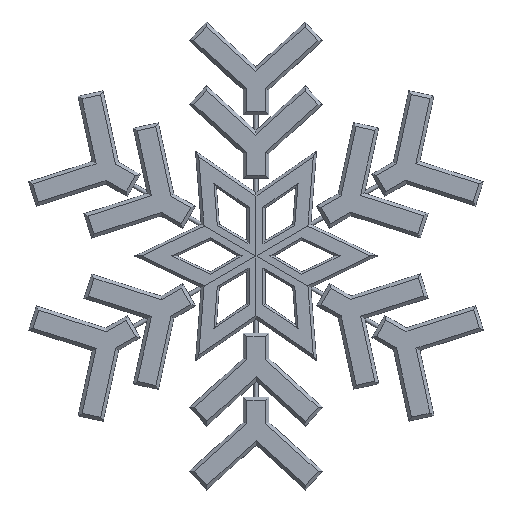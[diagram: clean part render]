
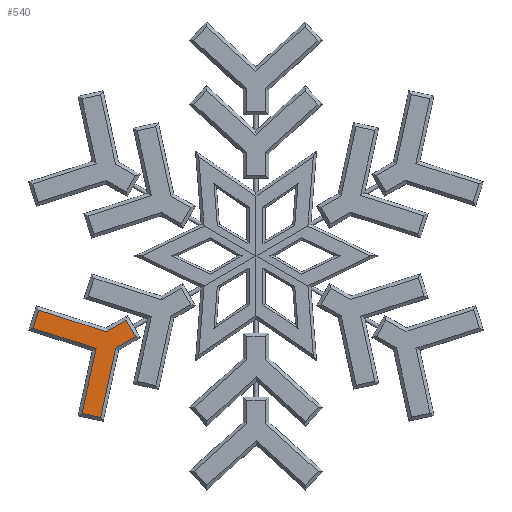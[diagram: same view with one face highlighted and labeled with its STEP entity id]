
A CAD part, top view. The second image highlights one B-rep face of the part: STEP entity #540.
In plain terms, the highlighted planar face has unit normal (0, 0, 1).
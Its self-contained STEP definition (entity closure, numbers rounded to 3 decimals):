
#540=ADVANCED_FACE('',(#1179),#8734,.T.);
#1179=FACE_OUTER_BOUND('',#1818,.T.);
#1818=EDGE_LOOP('',(#3634,#3635,#3636,#3637,#3638,#3639,#3640,#3641,#3642));
#3634=ORIENTED_EDGE('',*,*,#5580,.T.);
#3635=ORIENTED_EDGE('',*,*,#5586,.T.);
#3636=ORIENTED_EDGE('',*,*,#5590,.T.);
#3637=ORIENTED_EDGE('',*,*,#5563,.T.);
#3638=ORIENTED_EDGE('',*,*,#5566,.T.);
#3639=ORIENTED_EDGE('',*,*,#5571,.T.);
#3640=ORIENTED_EDGE('',*,*,#5560,.T.);
#3641=ORIENTED_EDGE('',*,*,#5559,.T.);
#3642=ORIENTED_EDGE('',*,*,#5558,.T.);
#5558=EDGE_CURVE('',#7997,#7995,#7005,.T.);
#5559=EDGE_CURVE('',#8000,#7997,#7006,.T.);
#5560=EDGE_CURVE('',#7999,#8000,#7007,.T.);
#5563=EDGE_CURVE('',#8002,#8003,#7010,.T.);
#5566=EDGE_CURVE('',#8003,#7998,#7013,.T.);
#5571=EDGE_CURVE('',#7998,#7999,#7018,.T.);
#5580=EDGE_CURVE('',#7995,#7996,#7027,.T.);
#5586=EDGE_CURVE('',#7996,#8001,#7033,.T.);
#5590=EDGE_CURVE('',#8001,#8002,#7037,.T.);
#7005=B_SPLINE_CURVE_WITH_KNOTS('',1,(#15827,#15828),.UNSPECIFIED.,.F.,
 .F.,(2,2),(0.4,3.202),.UNSPECIFIED.);
#7006=B_SPLINE_CURVE_WITH_KNOTS('',1,(#15829,#15830),.UNSPECIFIED.,.F.,
 .F.,(2,2),(0.4,2.7),.UNSPECIFIED.);
#7007=B_SPLINE_CURVE_WITH_KNOTS('',1,(#15831,#15832),.UNSPECIFIED.,.F.,
 .F.,(2,2),(-0.177,2.625),.UNSPECIFIED.);
#7010=B_SPLINE_CURVE_WITH_KNOTS('',1,(#15847,#15848),.UNSPECIFIED.,.F.,
 .F.,(2,2),(-0.363,7.69),.UNSPECIFIED.);
#7013=B_SPLINE_CURVE_WITH_KNOTS('',1,(#15863,#15864),.UNSPECIFIED.,.F.,
 .F.,(2,2),(0.4,2.7),.UNSPECIFIED.);
#7018=B_SPLINE_CURVE_WITH_KNOTS('',1,(#15903,#15904),.UNSPECIFIED.,.F.,
 .F.,(2,2),(0.4,8.989),.UNSPECIFIED.);
#7027=B_SPLINE_CURVE_WITH_KNOTS('',1,(#15991,#15992),.UNSPECIFIED.,.F.,
 .F.,(2,2),(-0.177,8.412),.UNSPECIFIED.);
#7033=B_SPLINE_CURVE_WITH_KNOTS('',1,(#16043,#16044),.UNSPECIFIED.,.F.,
 .F.,(2,2),(0.4,2.7),.UNSPECIFIED.);
#7037=B_SPLINE_CURVE_WITH_KNOTS('',1,(#16071,#16072),.UNSPECIFIED.,.F.,
 .F.,(2,2),(0.4,8.454),.UNSPECIFIED.);
#7995=VERTEX_POINT('',#15722);
#7996=VERTEX_POINT('',#15723);
#7997=VERTEX_POINT('',#15724);
#7998=VERTEX_POINT('',#15725);
#7999=VERTEX_POINT('',#15726);
#8000=VERTEX_POINT('',#15727);
#8001=VERTEX_POINT('',#15728);
#8002=VERTEX_POINT('',#15729);
#8003=VERTEX_POINT('',#15730);
#8734=PLANE('',#9234);
#9234=AXIS2_PLACEMENT_3D('',#15641,#9718,$);
#9718=DIRECTION('',(0.,0.,1.));
#15641=CARTESIAN_POINT('',(-4.618,39.696,3.432));
#15722=CARTESIAN_POINT('',(16.586,34.636,3.432));
#15723=CARTESIAN_POINT('',(2.877,39.025,3.432));
#15724=CARTESIAN_POINT('',(20.653,36.984,3.432));
#15725=CARTESIAN_POINT('',(15.459,17.232,3.432));
#15726=CARTESIAN_POINT('',(18.513,31.298,3.432));
#15727=CARTESIAN_POINT('',(22.58,33.646,3.432));
#15728=CARTESIAN_POINT('',(1.702,35.354,3.432));
#15729=CARTESIAN_POINT('',(14.556,31.239,3.432));
#15730=CARTESIAN_POINT('',(11.693,18.049,3.432));
#15827=CARTESIAN_POINT('',(20.653,36.984,3.432));
#15828=CARTESIAN_POINT('',(16.586,34.636,3.432));
#15829=CARTESIAN_POINT('',(22.58,33.646,3.432));
#15830=CARTESIAN_POINT('',(20.653,36.984,3.432));
#15831=CARTESIAN_POINT('',(18.513,31.298,3.432));
#15832=CARTESIAN_POINT('',(22.58,33.646,3.432));
#15847=CARTESIAN_POINT('',(14.556,31.239,3.432));
#15848=CARTESIAN_POINT('',(11.693,18.049,3.432));
#15863=CARTESIAN_POINT('',(11.693,18.049,3.432));
#15864=CARTESIAN_POINT('',(15.459,17.232,3.432));
#15903=CARTESIAN_POINT('',(15.459,17.232,3.432));
#15904=CARTESIAN_POINT('',(18.513,31.298,3.432));
#15991=CARTESIAN_POINT('',(16.586,34.636,3.432));
#15992=CARTESIAN_POINT('',(2.877,39.025,3.432));
#16043=CARTESIAN_POINT('',(2.877,39.025,3.432));
#16044=CARTESIAN_POINT('',(1.702,35.354,3.432));
#16071=CARTESIAN_POINT('',(1.702,35.354,3.432));
#16072=CARTESIAN_POINT('',(14.556,31.239,3.432));
